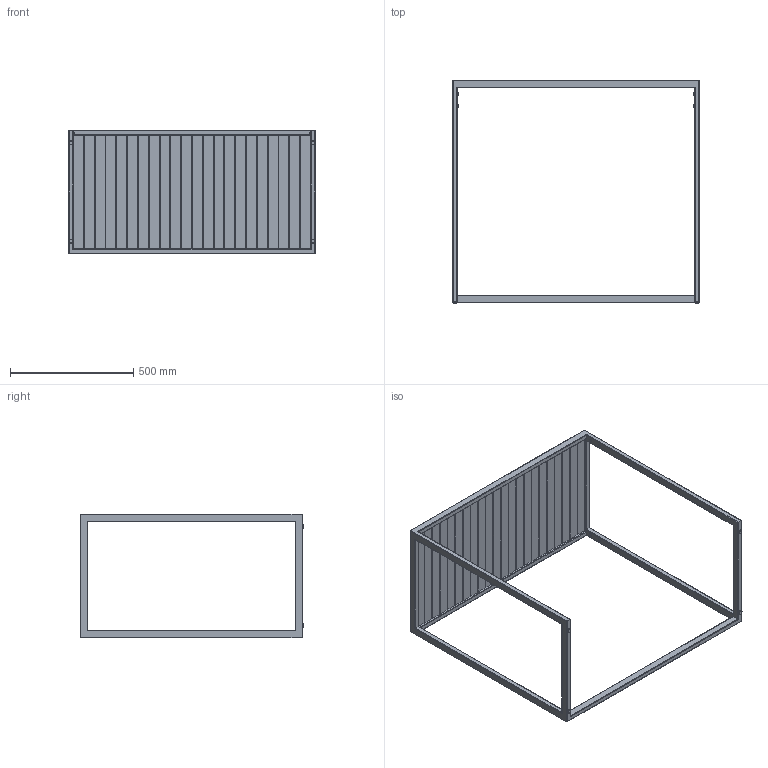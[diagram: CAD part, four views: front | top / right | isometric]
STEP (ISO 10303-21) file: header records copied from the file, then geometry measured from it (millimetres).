
FILE_DESCRIPTION(/* description */ (''),/* implementation_level */ '2;1');
FILE_NAME(/* name */ 'C:\INVENTOR\Workspace\# ARKITEKT FILER\Open Bistro\Open Bistro 100x50\Bistro 100x50.stp',/* time_stamp */ '2020-05-26T15:11:36+02:00',/* author */ ('Röshults'),/* organization */ (''),/* preprocessor_version */ 'ST-DEVELOPER v17.2',/* originating_system */ 'Autodesk Inventor 2019',/* authorisation */ '');
FILE_SCHEMA (('AUTOMOTIVE_DESIGN { 1 0 10303 214 3 1 1 }'));
Length unit declared in the file: millimetre
Products named in the file (1): Bistro 100x50
Bounding box: 1000 x 905 x 500 mm (x, y, z)
Volume: 13789380 mm3; surface area: 2083805.3 mm2
Topology: 23 solids, 23 shells, 292 faces, 642 edges, 414 vertices
Faces by surface type: plane 222, cylinder 56, torus 8, sphere 6
Full cylindrical faces by diameter (mm): 10.5 x8, 15 x4
Entity records: 8091 total; most frequent: CARTESIAN_POINT 1349, DIRECTION 1340, ORIENTED_EDGE 1284, EDGE_CURVE 642, LINE 530, VECTOR 530, VERTEX_POINT 414, AXIS2_PLACEMENT_3D 405
